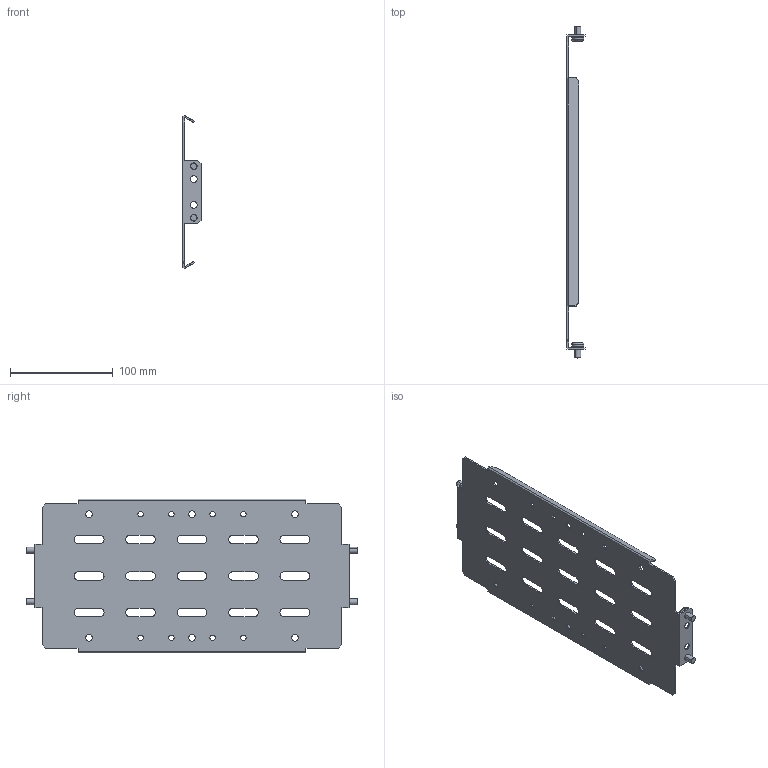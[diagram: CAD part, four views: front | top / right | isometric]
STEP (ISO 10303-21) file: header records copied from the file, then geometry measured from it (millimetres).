
FILE_DESCRIPTION (( 'STEP AP214' ), '1' );
FILE_NAME ('FO-00-SWV-015-040 Ïåðåãîðîäêà ñåêöèîíèðîâàíèÿ âåðòèêàëüíàÿ 150õ400 ìì.STEP', '2025-08-11T07:43:11', ( '' ), ( '' ), 'SwSTEP 2.0', 'SolidWorks 2023', '' );
FILE_SCHEMA (( 'AUTOMOTIVE_DESIGN' ));
Length unit declared in the file: millimetre
Products named in the file (1): FO-00-SWV-015-040 Перегородка секционирования вертикальная 150х400 мм
Bounding box: 17.5 x 322.5 x 148.93 mm (x, y, z)
Volume: 72115.9 mm3; surface area: 98395.4 mm2
Topology: 1 solids, 1 shells, 240 faces, 642 edges, 420 vertices
Faces by surface type: plane 126, cylinder 90, torus 16, cone 8
Entity records: 7669 total; most frequent: DIRECTION 1344, CARTESIAN_POINT 1303, ORIENTED_EDGE 1284, EDGE_CURVE 642, AXIS2_PLACEMENT_3D 461, LINE 422, VECTOR 422, VERTEX_POINT 420
